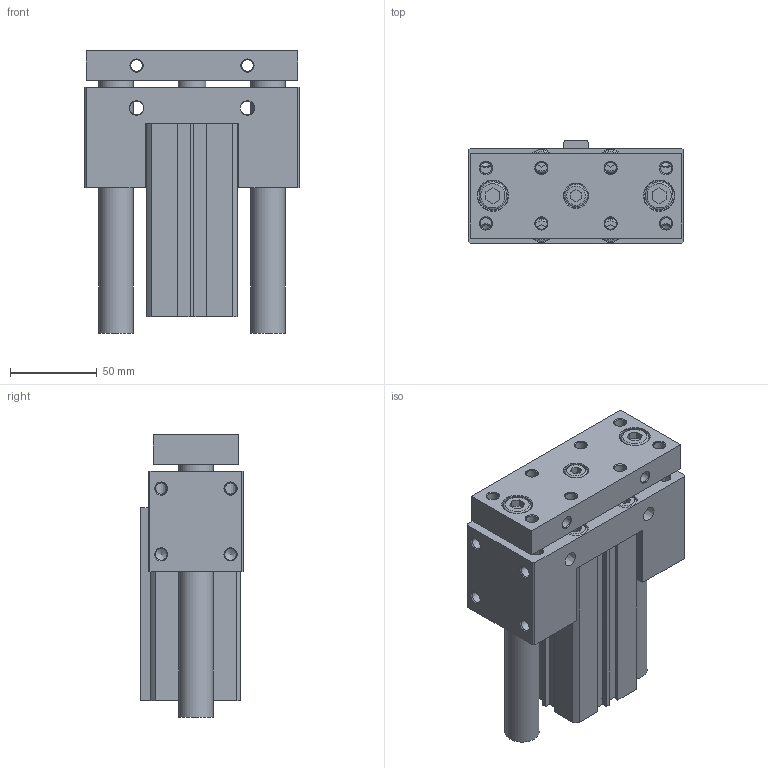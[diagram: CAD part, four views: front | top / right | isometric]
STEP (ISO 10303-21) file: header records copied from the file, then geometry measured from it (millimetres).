
FILE_DESCRIPTION((''),'2;1');
FILE_NAME('I:\3D電子目錄\氣缸\JCB\JCB\JCB40\JCB40x85.stp','2007-08-23T20:10:23',('Administrator'),(''),'Autodesk Inventor 11','Autodesk Inventor 11','');
FILE_SCHEMA(('AUTOMOTIVE_DESIGN { 1 0 10303 214 1 1 1 1 }'));
Length unit declared in the file: millimetre
Products named in the file (1): JCB40
Bounding box: 124 x 59.5 x 163 mm (x, y, z)
Volume: 671541.1 mm3; surface area: 141380.6 mm2
Topology: 3 solids, 3 shells, 303 faces, 731 edges, 473 vertices
Faces by surface type: plane 163, cylinder 52, cone 47, bspline 33, torus 8
Full cylindrical faces by diameter (mm): 2.2 x2, 6.647 x4, 6.8 x4, 10 x8, 13 x5, 14 x5, 16 x3, 17 x1, 17.5 x2, 20 x2, 23 x2, 28 x1, 29 x1, 42 x4, 44.5 x2
Entity records: 8528 total; most frequent: CARTESIAN_POINT 2090, DIRECTION 1302, ORIENTED_EDGE 1114, EDGE_CURVE 557, EDGE_LOOP 522, AXIS2_PLACEMENT_3D 480, VERTEX_POINT 435, VECTOR 342
